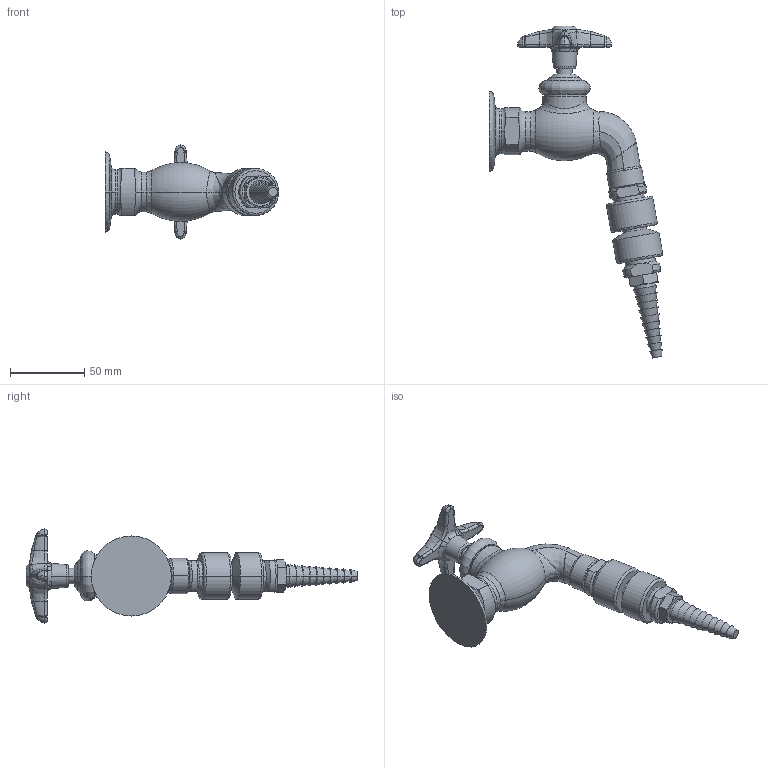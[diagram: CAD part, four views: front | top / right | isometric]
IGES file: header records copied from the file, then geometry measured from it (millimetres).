
Start section:  PTC IGES file: LWV3-A42.igs
Global section: file name: LWV3-A42.igs; native system: Creo Parametric by PTC Inc.; preprocessor: 2014500; author: usch_engrender; organization: Unknown; date: 20150910.120956; units: inch
Bounding box: 116.95 x 223.84 x 63.42 mm (x, y, z)
Volume: 163917.7 mm3; surface area: 33921.3 mm2
Topology: 1 solids, 4 shells, 412 faces, 985 edges, 596 vertices
Faces by surface type: bspline 255, revolution 157
